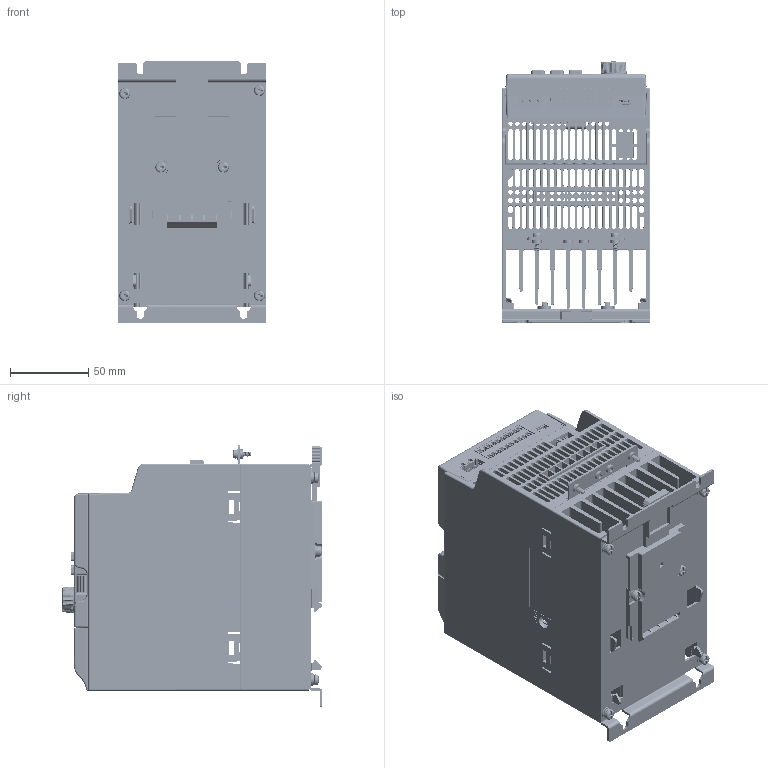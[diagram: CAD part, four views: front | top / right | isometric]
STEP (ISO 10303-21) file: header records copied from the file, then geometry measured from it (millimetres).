
FILE_DESCRIPTION((''),'2;1');
FILE_NAME('VFC5610-0K40-XXX-MNA-XX-NNNNN-N','2023-03-27T11:55:38',('ZUX1XI'),(''),'CREO PARAMETRIC BY PTC INC, 2021072','CREO PARAMETRIC BY PTC INC, 2021072','');
FILE_SCHEMA(('AUTOMOTIVE_DESIGN { 1 0 10303 214 1 1 1 1 }'));
Products named in the file (41): R912005502_1_1_1; EFC5610_0K4_CASE_RE_1_3_1; MANIFOLD_SOLID_BREP_14099_1_1; MANIFOLD_SOLID_BREP_14301_1_1; MANIFOLD_SOLID_BREP_14503_1_1; MANIFOLD_SOLID_BREP_14705_1_1; MANIFOLD_SOLID_BREP_14907_1_1; B_5_DIBAN_1_ASM_1_1; LDZHJ_SZCYZT_M4X10_1_1_1; PL_EFC5610_IOCAE_CONVER_1_1; CPU_CONNECTOR-14P_1_1; 548190519_1_1; 1155590000_1_1; LK_YCP06_1_1; 01-IOBACK_CASE_1_1; 01-IOCASE_1_1; 01_DISPLAYCASE_1_1_1; LED_1_1_1; DISPLAY_PCB_ASM_1_ASM_1_1; BACK_CASE1_1_1_1; R911330333_FOLIE_1_1_1; BUUTTON_1_1_1; XUAN_NIU_1_1_1; 02-DISPLAY-CASE_ASM_1_ASM_1_1; PRT0010_1_1_1; PRT0031_1_1_1; ASM0003_ASM_1_ASM_1_1; MANIFOLD_SOLID_BREP_410361_1_1; MANIFOLD_SOLID_BREP_410618_1_1; MANIFOLD_SOLID_BREP_410875_1_1; MANIFOLD_SOLID_BREP_411132_1_1; MANIFOLD_SOLID_BREP_411389_1_1; MANIFOLD_SOLID_BREP_411646_1_1; MANIFOLD_SOLID_BREP_411903_1_1; MANIFOLD_SOLID_BREP_412160_1_1; MANIFOLD_SOLID_BREP_412417_1_1; GND_1_ASM_1_1; LDZHJ_SZCYZT_M3X10_1_1_1; 00_B_5_ASM_1_ASM_5_1; VFC5610-0K40-XXX-MNA-XX-NNNNN_1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
Assembly tree (46 placements, depth 6):
  VFC5610-0K40-XXX-MNA-XX-NNNNN-N
    VFC5610-0K40-XXX-MNA-XX-NNNNN_1
      00_B_5_ASM_1_ASM_5_1
        R912005502_1_1_1
        EFC5610_0K4_CASE_RE_1_3_1
        B_5_DIBAN_1_ASM_1_1
          MANIFOLD_SOLID_BREP_14099_1_1
          MANIFOLD_SOLID_BREP_14301_1_1
          MANIFOLD_SOLID_BREP_14503_1_1
          MANIFOLD_SOLID_BREP_14705_1_1
          MANIFOLD_SOLID_BREP_14907_1_1
        LDZHJ_SZCYZT_M4X10_1_1_1  x6
        01-IOCASE_1_1
          PL_EFC5610_IOCAE_CONVER_1_1
          LK_YCP06_1_1
            CPU_CONNECTOR-14P_1_1
            548190519_1_1
            1155590000_1_1
          01-IOBACK_CASE_1_1
        02-DISPLAY-CASE_ASM_1_ASM_1_1
          01_DISPLAYCASE_1_1_1
          DISPLAY_PCB_ASM_1_ASM_1_1
            LED_1_1_1
          BACK_CASE1_1_1_1
          R911330333_FOLIE_1_1_1
          BUUTTON_1_1_1
          XUAN_NIU_1_1_1
        ASM0003_ASM_1_ASM_1_1
          PRT0010_1_1_1
          PRT0031_1_1_1
        GND_1_ASM_1_1
          MANIFOLD_SOLID_BREP_410361_1_1
          MANIFOLD_SOLID_BREP_410618_1_1
          MANIFOLD_SOLID_BREP_410875_1_1
          MANIFOLD_SOLID_BREP_411132_1_1
          MANIFOLD_SOLID_BREP_411389_1_1
          MANIFOLD_SOLID_BREP_411646_1_1
          MANIFOLD_SOLID_BREP_411903_1_1
          MANIFOLD_SOLID_BREP_412160_1_1
          MANIFOLD_SOLID_BREP_412417_1_1
        LDZHJ_SZCYZT_M3X10_1_1_1  x2
Bounding box: 95 x 166.55 x 167.5 mm (x, y, z)
Volume: 447259.6 mm3; surface area: 408654.1 mm2
Topology: 37 solids, 43 shells, 7465 faces, 20240 edges, 12876 vertices
Faces by surface type: plane 3869, cylinder 1922, bspline 952, torus 319, cone 192, sphere 139, extrusion 72
Entity records: 358009 total; most frequent: CARTESIAN_POINT 110083, ORIENTED_EDGE 37378, DIRECTION 32760, PRESENTATION_STYLE_ASSIGNMENT 20716, STYLED_ITEM 18770, CURVE_STYLE 18739, EDGE_CURVE 18689, VECTOR 12098
